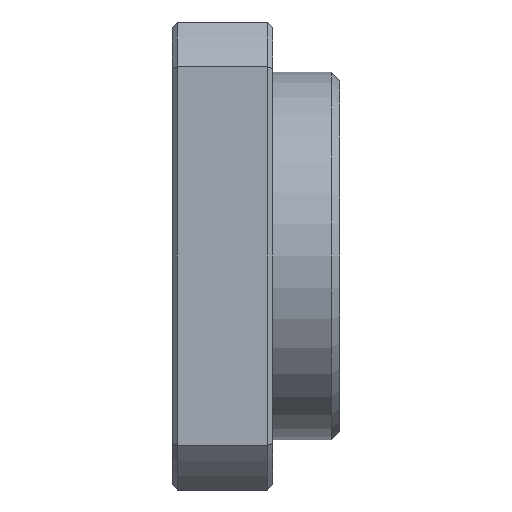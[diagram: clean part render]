
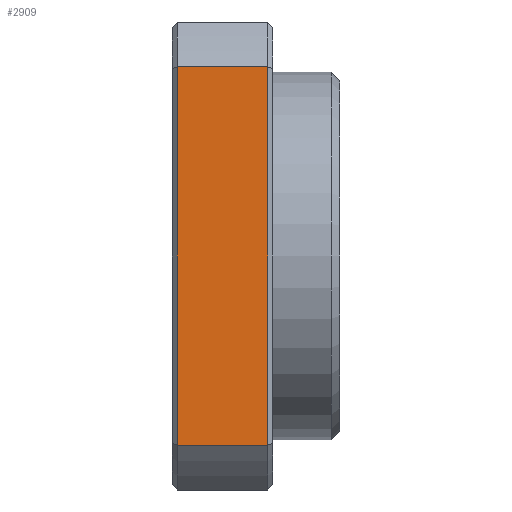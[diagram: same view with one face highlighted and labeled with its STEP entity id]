
A CAD part, front view. The second image highlights one B-rep face of the part: STEP entity #2909.
In plain terms, the highlighted planar face has unit normal (0, -1, 0).
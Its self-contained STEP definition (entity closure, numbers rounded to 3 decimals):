
#79 = AXIS2_PLACEMENT_3D ( 'NONE', #2209, #1114, #1105 ) ;
#134 = CARTESIAN_POINT ( 'NONE',  ( 0.3, -14., -11.314 ) ) ;
#213 = DIRECTION ( 'NONE',  ( 0., 0., -1. ) ) ;
#531 = DIRECTION ( 'NONE',  ( 1., 0., 0. ) ) ;
#591 = VERTEX_POINT ( 'NONE', #2509 ) ;
#629 = ORIENTED_EDGE ( 'NONE', *, *, #2839, .T. ) ;
#652 = VECTOR ( 'NONE', #2826, 1000. ) ;
#745 = LINE ( 'NONE', #2724, #652 ) ;
#896 = VERTEX_POINT ( 'NONE', #2043 ) ;
#933 = LINE ( 'NONE', #1179, #2310 ) ;
#1016 = DIRECTION ( 'NONE',  ( -1., 0., 0. ) ) ;
#1105 = DIRECTION ( 'NONE',  ( 0., 0., -1. ) ) ;
#1114 = DIRECTION ( 'NONE',  ( 0., -1., 0. ) ) ;
#1131 = CARTESIAN_POINT ( 'NONE',  ( 0.3, -14., -11.314 ) ) ;
#1179 = CARTESIAN_POINT ( 'NONE',  ( -81.647, -14., 11.314 ) ) ;
#1218 = FACE_OUTER_BOUND ( 'NONE', #2456, .T. ) ;
#1509 = ORIENTED_EDGE ( 'NONE', *, *, #2055, .T. ) ;
#1520 = PLANE ( 'NONE',  #79 ) ;
#1568 = EDGE_CURVE ( 'NONE', #591, #2937, #2046, .T. ) ;
#1732 = VECTOR ( 'NONE', #531, 1000. ) ;
#1813 = VERTEX_POINT ( 'NONE', #2694 ) ;
#2043 = CARTESIAN_POINT ( 'NONE',  ( 5.7, -14., 11.314 ) ) ;
#2046 = LINE ( 'NONE', #1131, #3472 ) ;
#2055 = EDGE_CURVE ( 'NONE', #896, #591, #933, .T. ) ;
#2209 = CARTESIAN_POINT ( 'NONE',  ( 50., -14., -14. ) ) ;
#2310 = VECTOR ( 'NONE', #1016, 1000. ) ;
#2392 = CARTESIAN_POINT ( 'NONE',  ( -81.647, -14., -11.314 ) ) ;
#2456 = EDGE_LOOP ( 'NONE', ( #1509, #2653, #2633, #629 ) ) ;
#2509 = CARTESIAN_POINT ( 'NONE',  ( 0.3, -14., 11.314 ) ) ;
#2633 = ORIENTED_EDGE ( 'NONE', *, *, #3490, .T. ) ;
#2653 = ORIENTED_EDGE ( 'NONE', *, *, #1568, .T. ) ;
#2694 = CARTESIAN_POINT ( 'NONE',  ( 5.7, -14., -11.314 ) ) ;
#2724 = CARTESIAN_POINT ( 'NONE',  ( 5.7, -14., 11.314 ) ) ;
#2826 = DIRECTION ( 'NONE',  ( 0., 0., 1. ) ) ;
#2839 = EDGE_CURVE ( 'NONE', #1813, #896, #745, .T. ) ;
#2909 = ADVANCED_FACE ( 'NONE', ( #1218 ), #1520, .T. ) ;
#2937 = VERTEX_POINT ( 'NONE', #134 ) ;
#3243 = LINE ( 'NONE', #2392, #1732 ) ;
#3472 = VECTOR ( 'NONE', #213, 1000. ) ;
#3490 = EDGE_CURVE ( 'NONE', #2937, #1813, #3243, .T. ) ;
